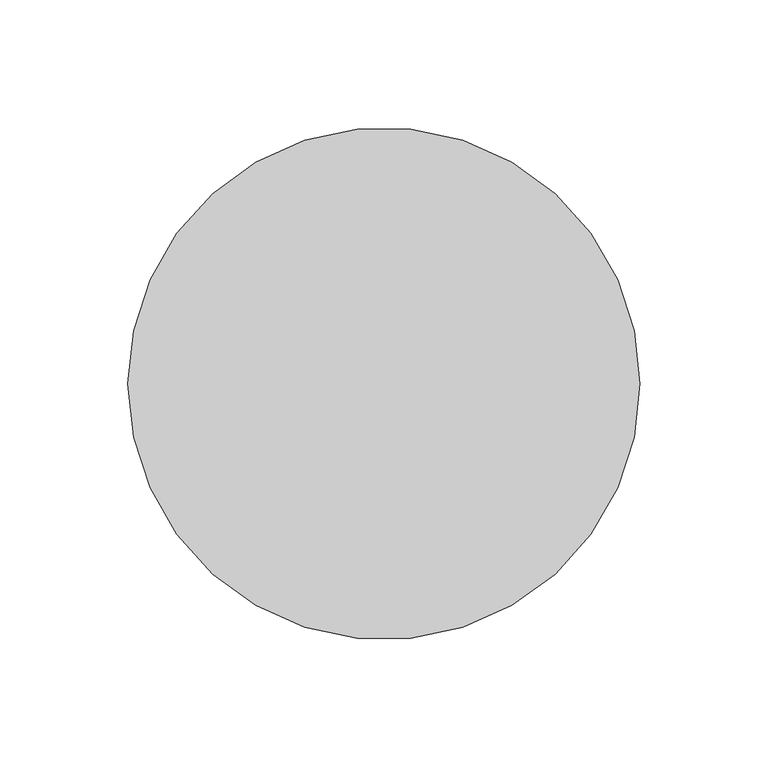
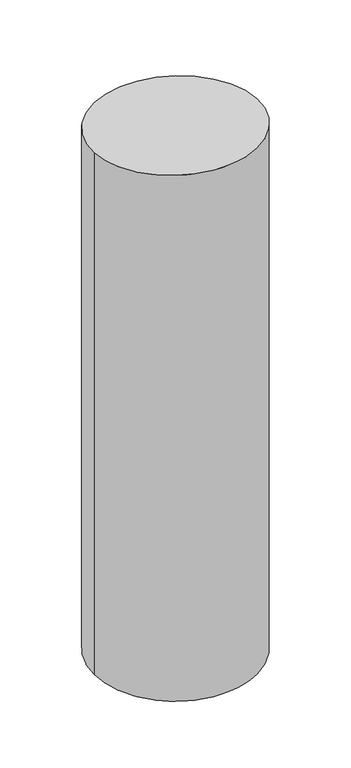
"""IFC4 building model written with IfcOpenShell, lengths in millimetres: member geometry, 矩形竖梃 : 圆瓦."""

from ifc_helpers import new_model, si_unit, frame, origin, origin_with_axes, place, context, project, spatial, circle_curve, ellipse_curve, source, transform, mapped, element, save
from ifc_brep_helpers import plane_surface, cylinder_surface, advanced_brep


def member_1220ca79(model_context):
    return source(origin(), model_context, "Body", "AdvancedBrep", [
        advanced_brep(
        [(100.0, 0.0, -676.718601), (-100.0, 0.0, -676.718601), (-100.0, 0.0, 0.0), (100.0, 0.0, 0.0)],
        [
            (0, 1, circle_curve(frame((0.0, 0.0, -676.718601), z_axis=(0.0, 0.0, -1.0), x_axis=(1.0, 0.0, 0.0)), 100.0)),
            (1, 0, circle_curve(frame((0.0, 0.0, -676.718601), z_axis=(0.0, 0.0, -1.0), x_axis=(1.0, 0.0, 0.0)), 100.0)),
            (2, 3, ellipse_curve(frame((0.0, 0.0, 0.0), z_axis=(0.0, -0.06281746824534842, -0.998025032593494), x_axis=(0.0, -0.9980250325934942, 0.06281746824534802)), 100.1978876, 100.0)),
            (3, 0),
            (1, 2),
            (3, 2, ellipse_curve(frame((0.0, 0.0, 0.0), z_axis=(0.0, -0.06281746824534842, -0.998025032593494), x_axis=(0.0, -0.9980250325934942, 0.06281746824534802)), 100.1978876, 100.0)),
        ],
        [
            plane_surface(frame((0.0, -100.0, -676.718601), z_axis=(0.0, 0.0, -1.0), x_axis=(-1.0, 0.0, 0.0))),
            cylinder_surface(origin_with_axes(), 100.0),
            plane_surface(frame((-304.8, 0.0, 0.0), z_axis=(0.0, 0.06281746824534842, 0.998025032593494), x_axis=(0.0, 0.998025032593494, -0.06281746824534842))),
        ],
        [
            (0, [[1, 2]]),
            (1, [[3, 4, -2, 5]]),
            (1, [[6, -5, -1, -4]]),
            (2, [[-3, -6]]),
        ],
    ),
    ])


if __name__ == "__main__":
    model = new_model("IFC4")
    model_context = context("Model", 3, world=origin())
    ifc_project = project(units=[si_unit("LENGTHUNIT", "METRE", prefix="MILLI")], contexts=[model_context])
    site = spatial("IfcSite", under=ifc_project)
    building = spatial("IfcBuilding", under=site)
    placement = place(None, origin())
    member_shape = member_1220ca79(model_context)
    element("IfcMember", 1, ObjectType="矩形竖梃 : 圆瓦", at=placement, inside=building, context=model_context, shape_type="MappedRepresentation", body=[
        mapped(member_shape, transform((0.0, 0.0, 0.0), x_axis=(1.0, 0.0, 0.0), y_axis=(0.0, 1.0, 0.0), z_axis=(0.0, 0.0, 1.0))),
    ])
    save(model, "model.ifc")
